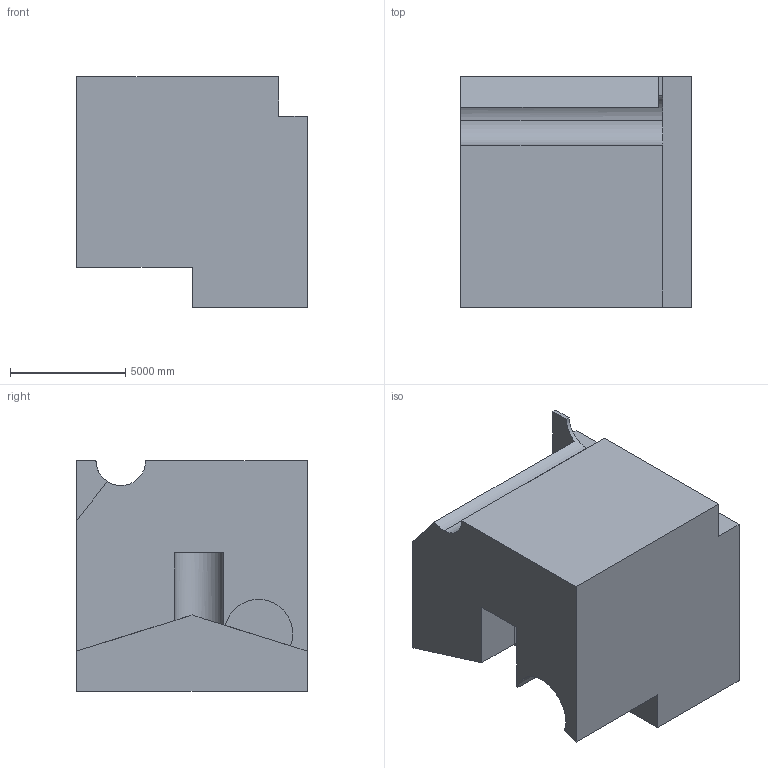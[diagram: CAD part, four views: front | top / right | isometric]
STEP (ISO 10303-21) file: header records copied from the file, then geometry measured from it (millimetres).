
FILE_DESCRIPTION (( 'STEP AP203' ), '1' );
FILE_NAME ('628.STEP', '2022-07-29T12:10:55', ( 'user' ), ( '' ), 'SwSTEP 2.0', 'SolidWorks 2021', '' );
FILE_SCHEMA (( 'CONFIG_CONTROL_DESIGN' ));
Length unit declared in the file: centimetre
Products named in the file (1): 628
Bounding box: 10000 x 10000 x 10000 mm (x, y, z)
Volume: 784609695953.7 mm3; surface area: 602741037.1 mm2
Topology: 1 solids, 1 shells, 26 faces, 69 edges, 46 vertices
Faces by surface type: plane 19, cylinder 7
Entity records: 884 total; most frequent: CARTESIAN_POINT 148, ORIENTED_EDGE 138, DIRECTION 135, EDGE_CURVE 69, LINE 53, VECTOR 53, VERTEX_POINT 46, AXIS2_PLACEMENT_3D 41
